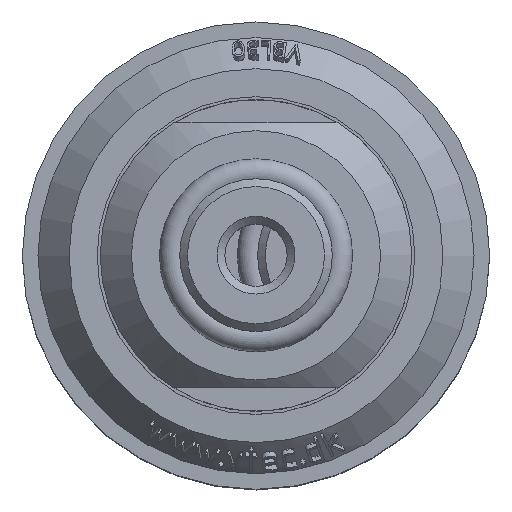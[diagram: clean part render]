
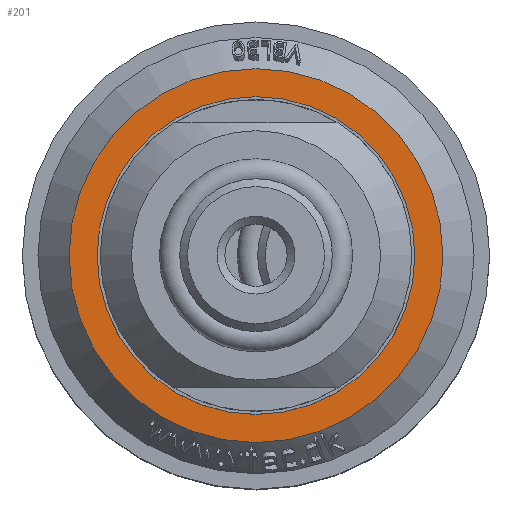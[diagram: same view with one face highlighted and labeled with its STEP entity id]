
A CAD part, top view. The second image highlights one B-rep face of the part: STEP entity #201.
In plain terms, the highlighted planar face has unit normal (0, 0, 1).
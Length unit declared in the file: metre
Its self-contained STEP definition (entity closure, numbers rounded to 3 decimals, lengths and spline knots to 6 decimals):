
#201 = ADVANCED_FACE( '', ( #484, #485 ), #486, .F. );
#484 = FACE_OUTER_BOUND( '', #1792, .T. );
#485 = FACE_BOUND( '', #1793, .T. );
#486 = PLANE( '', #1794 );
#1792 = EDGE_LOOP( '', ( #4833 ) );
#1793 = EDGE_LOOP( '', ( #4834 ) );
#1794 = AXIS2_PLACEMENT_3D( '', #4835, #4836, #4837 );
#4833 = ORIENTED_EDGE( '', *, *, #5888, .F. );
#4834 = ORIENTED_EDGE( '', *, *, #6019, .F. );
#4835 = CARTESIAN_POINT( '', ( -0.0055, 0., 0.01125 ) );
#4836 = DIRECTION( '', ( 0., 0., -1. ) );
#4837 = DIRECTION( '', ( -1., 0., 0. ) );
#5888 = EDGE_CURVE( '', #6426, #6426, #6427, .T. );
#6019 = EDGE_CURVE( '', #6668, #6668, #6669, .F. );
#6426 = VERTEX_POINT( '', #7580 );
#6427 = CIRCLE( '', #7581, 0.012 );
#6668 = VERTEX_POINT( '', #8656 );
#6669 = CIRCLE( '', #8657, 0.0102 );
#7580 = CARTESIAN_POINT( '', ( -0.012, 0., 0.01125 ) );
#7581 = AXIS2_PLACEMENT_3D( '', #9916, #9917, #9918 );
#8656 = CARTESIAN_POINT( '', ( -0.0102, 0., 0.01125 ) );
#8657 = AXIS2_PLACEMENT_3D( '', #9947, #9948, #9949 );
#9916 = CARTESIAN_POINT( '', ( 0., 0., 0.01125 ) );
#9917 = DIRECTION( '', ( 0., 0., -1. ) );
#9918 = DIRECTION( '', ( -1., 0., 0. ) );
#9947 = CARTESIAN_POINT( '', ( 0., 0., 0.01125 ) );
#9948 = DIRECTION( '', ( 0., 0., -1. ) );
#9949 = DIRECTION( '', ( -1., 0., 0. ) );
